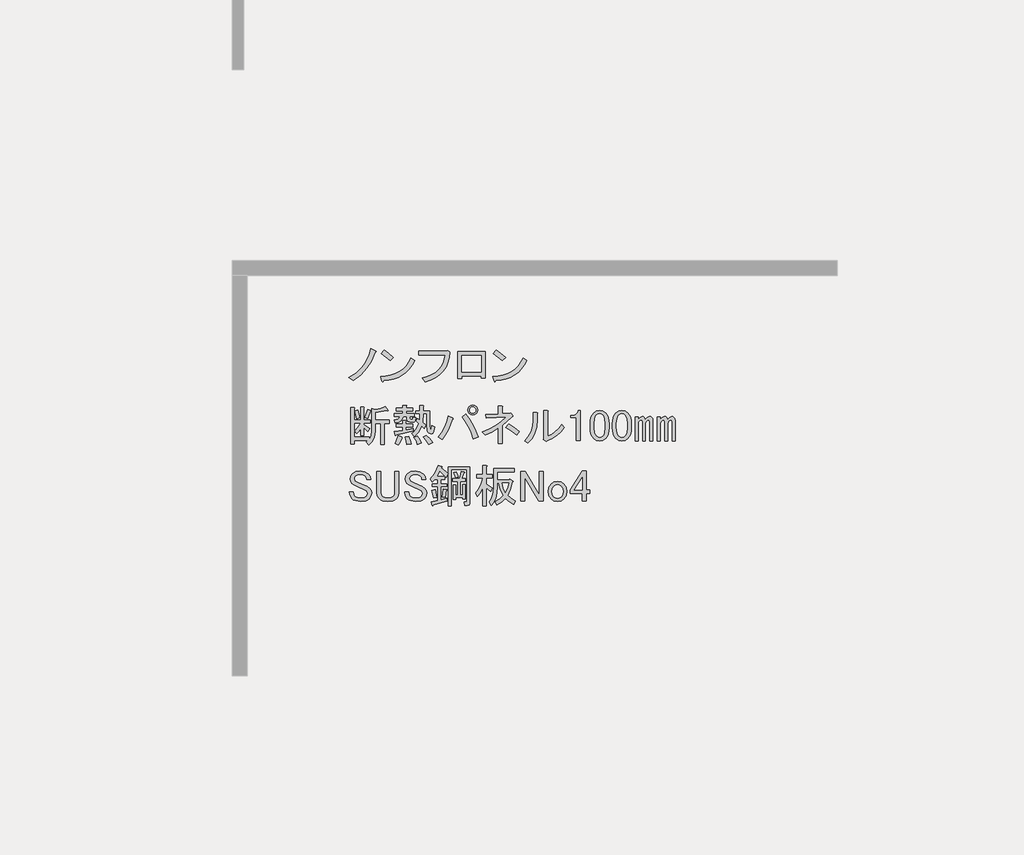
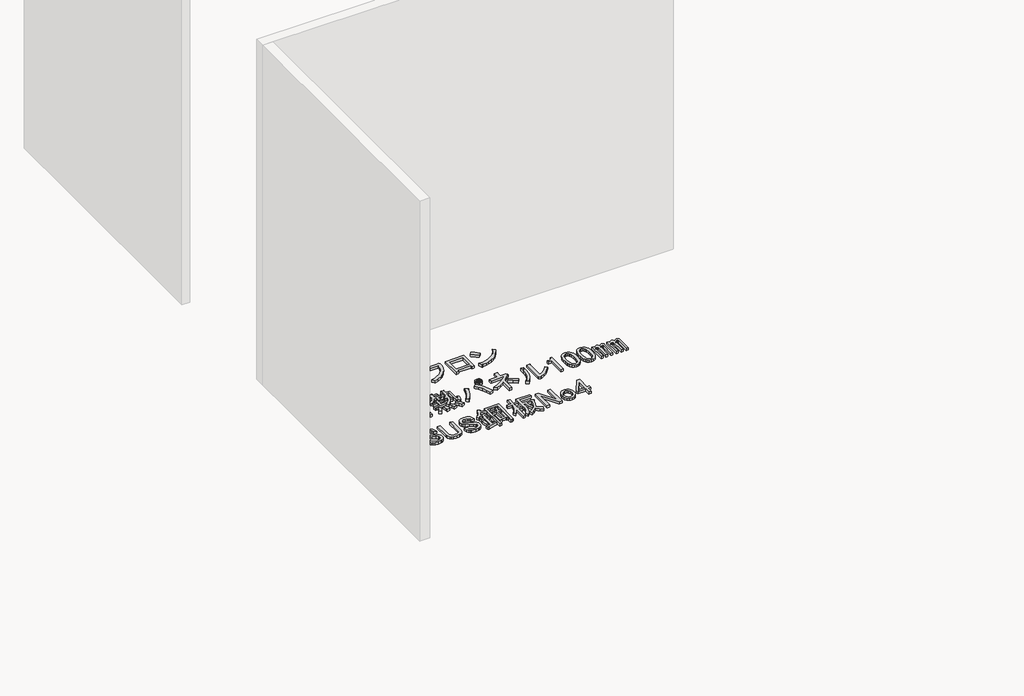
# One storey, part 48 of 117: 1 proxy.
"""IFC4 building model written with IfcOpenShell, lengths in millimetres."""

import ifcopenshell
import ifcopenshell.guid

model = None  # the IFC model being written
_history = None  # IfcOwnerHistory: only IFC2X3 demands one
_inside = {}  # id of a spatial element -> (the spatial element, [elements in it])
_under = {}  # id of a project, library or spatial element -> (it, [spatial elements below it])
_declared = {}  # id of a project -> (the project, [libraries it declares])
_typed = {}  # id of a type object -> (the type object, [elements of that type])
_made_of = {}  # id of a material, layer set ... -> (it, [elements and type objects made of it])


def new_model(schema):
    """Start an empty IFC model of exactly this schema.

    Asked for "IFC4X3", IfcOpenShell would pick the latest addendum, in which some entities
    have other attributes; the version numbers below select the first issue.
    IFC2X3 requires an IfcOwnerHistory on every rooted entity: one is made here for all.
    """
    global model, _history
    if schema == "IFC4X3":
        model = ifcopenshell.file(schema_version=(4, 3, 0, 0))
    else:
        model = ifcopenshell.file(schema=schema)
    _inside.clear()
    _under.clear()
    _declared.clear()
    _typed.clear()
    _made_of.clear()
    _history = None
    if model.schema == "IFC2X3":
        org = make("IfcOrganization", Name="unknown")
        user = make(
            "IfcPersonAndOrganization",
            ThePerson=make("IfcPerson", FamilyName="unknown"),
            TheOrganization=org,
        )
        app = make(
            "IfcApplication",
            ApplicationDeveloper=org,
            Version="unknown",
            ApplicationFullName="unknown",
            ApplicationIdentifier="unknown",
        )
        _history = make(
            "IfcOwnerHistory",
            OwningUser=user,
            OwningApplication=app,
            ChangeAction="ADDED",
            CreationDate=0,
        )
    return model


def make(cls, **values):
    """One entity of the class cls with the attributes given. An attribute that is None is left unset."""
    return model.create_entity(
        cls, **{name: value for name, value in values.items() if value is not None}
    )


def rooted(cls, **values):
    """An entity with a GlobalId (a new one), such as an element, a storey or a relation."""
    return make(cls, GlobalId=ifcopenshell.guid.new(), OwnerHistory=_history, **values)


def si_unit(unit_type, name, prefix=None):
    """IfcSIUnit, for example si_unit("LENGTHUNIT", "METRE", prefix="MILLI")."""
    return make("IfcSIUnit", UnitType=unit_type, Prefix=prefix, Name=name)


def assignment(units):
    """IfcUnitAssignment: the units of a project."""
    return None if units is None else make("IfcUnitAssignment", Units=units)


def point(xyz):
    """IfcCartesianPoint."""
    return None if xyz is None else make("IfcCartesianPoint", Coordinates=xyz)


def direction(xyz):
    """IfcDirection."""
    return None if xyz is None else make("IfcDirection", DirectionRatios=xyz)


def frame(location, z_axis=None, x_axis=None):
    """IfcAxis2Placement3D, a coordinate frame: its origin and axes. An axis left out is left unset."""
    return make(
        "IfcAxis2Placement3D",
        Location=point(location),
        Axis=direction(z_axis),
        RefDirection=direction(x_axis),
    )


def origin():
    """The frame at (0, 0, 0) with its axes left unset."""
    return frame((0.0, 0.0, 0.0))


def place(relative_to, where):
    """IfcLocalPlacement: puts the frame where relative to a parent placement (None: the world)."""
    return make(
        "IfcLocalPlacement", PlacementRelTo=relative_to, RelativePlacement=where
    )


def context(
    kind, dimensions, precision=None, world=None, true_north=None, identifier=None
):
    """IfcGeometricRepresentationContext, for example the 3D "Model" context."""
    return make(
        "IfcGeometricRepresentationContext",
        ContextIdentifier=identifier,
        ContextType=kind,
        CoordinateSpaceDimension=dimensions,
        Precision=precision,
        WorldCoordinateSystem=world,
        TrueNorth=true_north,
    )


def project(units=None, contexts=None):
    """IfcProject with its units and contexts."""
    return rooted(
        "IfcProject",
        Name="project",
        RepresentationContexts=contexts,
        UnitsInContext=assignment(units),
    )


def spatial(cls, under=None, at=None, **own):
    """A site, building, storey or space (cls), placed at a placement, below another one or the project."""
    s = rooted(cls, ObjectPlacement=at, **own)
    if under is not None:
        _under.setdefault(under.id(), (under, []))[1].append(s)
    return s


def polyline(points):
    """IfcPolyline through the points."""
    return make("IfcPolyline", Points=[point(p) for p in points])


def outline(outer, holes=None, kind="AREA"):
    """IfcArbitraryClosedProfileDef: a profile drawn as a closed curve; with holes, ...WithVoids."""
    if holes is None:
        return make("IfcArbitraryClosedProfileDef", ProfileType=kind, OuterCurve=outer)
    return make(
        "IfcArbitraryProfileDefWithVoids",
        ProfileType=kind,
        OuterCurve=outer,
        InnerCurves=holes,
    )


def extrude(swept, where, along, depth):
    """IfcExtrudedAreaSolid: the profile swept, set in the frame where, extruded along a direction by depth."""
    return make(
        "IfcExtrudedAreaSolid",
        SweptArea=swept,
        Position=where,
        ExtrudedDirection=direction(along),
        Depth=depth,
    )


def shape(context_of_items, identifier, shape_type, items):
    """IfcShapeRepresentation: the items that make up one representation, for example the "Body"."""
    return make(
        "IfcShapeRepresentation",
        ContextOfItems=context_of_items,
        RepresentationIdentifier=identifier,
        RepresentationType=shape_type,
        Items=items,
    )


def made_of(thing, what):
    """Note that an element or type object is made of a material, layer set ...; save() writes the relation."""
    if what is not None:
        _made_of.setdefault(what.id(), (what, []))[1].append(thing)
    return thing


def element(
    cls,
    number,
    at=None,
    inside=None,
    cuts=None,
    type_object=None,
    material=None,
    context=None,
    identifier="Body",
    shape_type=None,
    held_by="IfcProductDefinitionShape",
    body=None,
    shapes=None,
    **own,
):
    """One element of the class cls, such as IfcWall. Its Tag is "e" and its number.

    at: its placement. inside: the storey or other place that contains it. cuts: it is an
    opening in that element (IfcRelVoidsElement). A single representation is given by context,
    identifier, shape_type and body (its items); several are given by shapes. held_by: the class
    of the entity that holds the representations. save() writes the other relations.
    """
    e = rooted(cls, Tag="e%d" % number, ObjectPlacement=at, **own)
    if body is not None:
        shapes = [shape(context, identifier, shape_type, body)]
    if shapes is not None:
        e.Representation = make(held_by, Representations=shapes)
    if inside is not None:
        _inside.setdefault(inside.id(), (inside, []))[1].append(e)
    if cuts is not None:
        rooted(
            "IfcRelVoidsElement", RelatingBuildingElement=cuts, RelatedOpeningElement=e
        )
    if type_object is not None:
        _typed.setdefault(type_object.id(), (type_object, []))[1].append(e)
    return made_of(e, material)


def aggregate(whole, parts):
    """IfcRelAggregates: a whole, such as a stair, and the parts it consists of."""
    return rooted("IfcRelAggregates", RelatingObject=whole, RelatedObjects=parts)


def save(model, path):
    """Write the relations noted so far, then the file.

    IfcRelAggregates (storeys below a building ...), IfcRelContainedInSpatialStructure (elements
    in a storey), IfcRelDefinesByType, IfcRelAssociatesMaterial and IfcRelDeclares: one each for
    every whole, place, type object, material and project.
    """
    for whole, parts in _under.values():
        aggregate(whole, parts)
    for where, things in _inside.values():
        rooted(
            "IfcRelContainedInSpatialStructure",
            RelatedElements=things,
            RelatingStructure=where,
        )
    for kind, things in _typed.values():
        rooted("IfcRelDefinesByType", RelatedObjects=things, RelatingType=kind)
    for what, things in _made_of.values():
        rooted("IfcRelAssociatesMaterial", RelatedObjects=things, RelatingMaterial=what)
    for by, libraries in _declared.values():
        rooted("IfcRelDeclares", RelatingContext=by, RelatedDefinitions=libraries)
    model.write(path)


model = new_model("IFC4")

# Units and contexts
model_context = context("Model", 3, world=origin())
ifc_project = project(units=[si_unit("LENGTHUNIT", "METRE", prefix="MILLI")], contexts=[model_context])

# Site, building, storey
site = spatial("IfcSite", under=ifc_project)
building = spatial("IfcBuilding", under=site)
storey = spatial("IfcBuildingStorey", under=building, Name="レベル 1", Elevation=500.0)

# Proxy
placement = place(None, origin())
element("IfcBuildingElementProxy", 1, Name="200㎜\u3000MS Pゴシック", ObjectType="200㎜\u3000MS Pゴシック", at=placement, inside=storey, context=model_context, shape_type="SweptSolid", body=[
    extrude(outline(polyline([(16943.6706985, -4607.0496882), (16918.0952502, -4666.8215225), (16889.646156, -4712.7998566), (16847.9782907, -4758.2034615), (16798.8389462, -4795.560858), (16771.2519457, -4773.7211493), (16818.9544673, -4743.2605029), (16858.6107805, -4704.7536481), (16875.9963381, -4680.8305462), (16891.3703435, -4652.7406577), (16904.7327969, -4620.4839827), (16916.0836981, -4584.0605212), (16947.1190736, -4597.8540214), (16950.2800841, -4602.4518548), (16943.6706985, -4607.0496882)])), frame((0.0, 0.0, 500.0), z_axis=(0.0, 0.0, 1.0), x_axis=(1.0, 0.0, 0.0)), (0.0, 0.0, 1.0), 25.0),
    extrude(outline(polyline([(17043.3977052, -4662.2236891), (16984.7753292, -4615.0958967), (17004.3161212, -4590.9572713), (17031.6157571, -4610.7854279), (17065.2374138, -4640.3839804), (17043.3977052, -4662.2236891)])), frame((0.0, 0.0, 500.0), z_axis=(0.0, 0.0, 1.0), x_axis=(1.0, 0.0, 0.0)), (0.0, 0.0, 1.0), 25.0),
    extrude(outline(polyline([(17205.4713328, -4662.2236891), (17188.947869, -4691.965924), (17169.8381239, -4717.9724192), (17148.1420975, -4740.2431748), (17123.8597898, -4758.7781907), (17096.9912008, -4773.577467), (17067.5363306, -4784.6410036), (17035.495179, -4791.9688006), (17000.8677461, -4795.560858), (16995.1204544, -4803.6070664), (16989.3731626, -4797.8597747), (16980.1774958, -4767.9738575), (17016.0082679, -4765.2977748), (17048.7857912, -4758.9937141), (17078.5100658, -4749.0616756), (17105.1810916, -4735.5016591), (17128.7988687, -4718.3136646), (17149.363397, -4697.4976923), (17166.8746766, -4673.053742), (17181.3327074, -4644.9818138), (17205.4713328, -4662.2236891)])), frame((0.0, 0.0, 500.0), z_axis=(0.0, 0.0, 1.0), x_axis=(1.0, 0.0, 0.0)), (0.0, 0.0, 1.0), 25.0),
    extrude(outline(polyline([(17256.2314136, -4777.1695243), (17290.014713, -4767.4889298), (17319.5234641, -4755.1142922), (17344.757667, -4740.0456116), (17365.7173217, -4722.282888), (17382.402428, -4701.8261214), (17394.8129862, -4678.6753118), (17402.9489961, -4652.8304591), (17406.8104577, -4624.2915635), (17234.3917049, -4624.2915635), (17234.3917049, -4599.0034798), (17409.1093744, -4599.0034798), (17425.2017914, -4595.5551047), (17437.8458332, -4607.0496882), (17434.325617, -4643.5449909), (17426.0638851, -4676.5919185), (17413.0606375, -4706.1904711), (17395.3158742, -4732.3406486), (17372.8295952, -4755.042451), (17345.6018005, -4774.2958784), (17313.6324901, -4790.1009308), (17276.921664, -4802.4576081), (17256.2314136, -4777.1695243)])), frame((0.0, 0.0, 500.0), z_axis=(0.0, 0.0, 1.0), x_axis=(1.0, 0.0, 0.0)), (0.0, 0.0, 1.0), 25.0),
    extrude(outline(polyline([(17670.955987, -4776.020066), (17644.5184449, -4776.020066), (17644.5184449, -4763.3760241), (17516.9285679, -4763.3760241), (17516.9285679, -4781.7673577), (17490.4910258, -4781.7673577), (17490.4910258, -4602.4518548), (17670.955987, -4602.4518548), (17670.955987, -4776.020066)]), holes=[polyline([(17516.9285679, -4627.7399386), (17516.9285679, -4738.0879404), (17644.5184449, -4738.0879404), (17644.5184449, -4627.7399386), (17516.9285679, -4627.7399386)])]), frame((0.0, 0.0, 500.0), z_axis=(0.0, 0.0, 1.0), x_axis=(1.0, 0.0, 0.0)), (0.0, 0.0, 1.0), 25.0),
    extrude(outline(polyline([(17947.0099049, -4662.2236891), (17930.4864411, -4691.965924), (17911.376696, -4717.9724192), (17889.6806696, -4740.2431748), (17865.3983619, -4758.7781907), (17838.5297729, -4773.577467), (17809.0749026, -4784.6410036), (17777.0337511, -4791.9688006), (17742.4063182, -4795.560858), (17736.6590264, -4803.6070664), (17730.9117347, -4797.8597747), (17721.7160679, -4767.9738575), (17757.5468399, -4765.2977748), (17790.3243633, -4758.9937141), (17820.0486378, -4749.0616756), (17846.7196637, -4735.5016591), (17870.3374407, -4718.3136646), (17890.9019691, -4697.4976923), (17908.4132486, -4673.053742), (17922.8712795, -4644.9818138), (17947.0099049, -4662.2236891)])), frame((0.0, 0.0, 500.0), z_axis=(0.0, 0.0, 1.0), x_axis=(1.0, 0.0, 0.0)), (0.0, 0.0, 1.0), 25.0),
    extrude(outline(polyline([(17784.9362772, -4662.2236891), (17726.3139013, -4615.0958967), (17745.8546933, -4590.9572713), (17773.1543291, -4610.7854279), (17806.7759859, -4640.3839804), (17784.9362772, -4662.2236891)])), frame((0.0, 0.0, 500.0), z_axis=(0.0, 0.0, 1.0), x_axis=(1.0, 0.0, 0.0)), (0.0, 0.0, 1.0), 25.0),
    extrude(outline(polyline([(16877.0021141, -5039.2345221), (16894.2439894, -4986.3594379), (16914.9342397, -4992.1067296), (16916.6584273, -4995.2677401), (16912.635323, -4997.8540214), (16895.3934477, -5046.1312722), (16877.0021141, -5039.2345221)])), frame((0.0, 0.0, 500.0), z_axis=(0.0, 0.0, 1.0), x_axis=(1.0, 0.0, 0.0)), (0.0, 0.0, 1.0), 25.0),
    extrude(outline(polyline([(17031.0295333, -4990.9572713), (17029.3053458, -4995.5551047), (17021.8338665, -4993.256188), (16944.8201569, -5005.9002299), (16944.8201569, -5055.326939), (17036.7768251, -5055.326939), (17036.7768251, -5077.1666477), (17005.7414495, -5077.1666477), (17005.7414495, -5217.4005666), (16982.7522825, -5217.4005666), (16982.7522825, -5077.1666477), (16944.8201569, -5077.1666477), (16944.8201569, -5126.5933568), (16942.2338756, -5154.3958807), (16934.4750317, -5179.1810764), (16921.5436253, -5200.948944), (16903.4396562, -5219.6994833), (16886.1977809, -5200.1586914), (16896.5429061, -5190.9630245), (16806.8851546, -5190.9630245), (16806.8851546, -5212.8027332), (16783.8959876, -5212.8027332), (16783.8959876, -4973.715396), (16805.7356963, -4973.715396), (16810.6208943, -4976.0143127), (16806.8851546, -4980.6121461), (16806.8851546, -5056.4763974), (16849.4151137, -5056.4763974), (16849.4151137, -4969.1175626), (16867.8064473, -4969.1175626), (16872.6916453, -4971.4164793), (16868.9559057, -4976.0143127), (16868.9559057, -5056.4763974), (16912.635323, -5056.4763974), (16912.635323, -5074.867731), (16868.9559057, -5074.867731), (16868.9559057, -5084.0633978), (16909.186948, -5110.5009399), (16895.3934477, -5132.3406486), (16868.9559057, -5105.9031065), (16868.9559057, -5158.7781907), (16849.4151137, -5158.7781907), (16849.4151137, -5110.5009399), (16836.1963426, -5130.3290965), (16821.8281132, -5146.1341488), (16809.1840713, -5127.7428152), (16831.02378, -5103.6041898), (16848.2656553, -5074.867731), (16806.8851546, -5074.867731), (16806.8851546, -5169.1233159), (16904.5891146, -5169.1233159), (16904.5891146, -5182.9168161), (16917.520521, -5158.7781907), (16921.8309898, -5125.4438985), (16921.8309898, -4980.6121461), (16943.6706985, -4986.3594379), (16979.8786366, -4978.8879586), (17010.339283, -4965.6691875), (17031.0295333, -4990.9572713)])), frame((0.0, 0.0, 500.0), z_axis=(0.0, 0.0, 1.0), x_axis=(1.0, 0.0, 0.0)), (0.0, 0.0, 1.0), 25.0),
    extrude(outline(polyline([(16822.9775716, -5047.2807305), (16810.3335297, -4996.7045631), (16829.8743217, -4989.8078129), (16837.6331656, -5013.9464383), (16842.5183636, -5040.3839804), (16822.9775716, -5047.2807305)])), frame((0.0, 0.0, 500.0), z_axis=(0.0, 0.0, 1.0), x_axis=(1.0, 0.0, 0.0)), (0.0, 0.0, 1.0), 25.0),
    extrude(outline(polyline([(17121.8367431, -5167.9738575), (17125.2851182, -5172.8590555), (17119.5378264, -5176.020066), (17109.7674304, -5201.5955143), (17098.8475761, -5220.8489417), (17075.858409, -5209.3543582), (17088.5024509, -5185.790462), (17098.8475761, -5158.7781907), (17121.8367431, -5167.9738575)])), frame((0.0, 0.0, 500.0), z_axis=(0.0, 0.0, 1.0), x_axis=(1.0, 0.0, 0.0)), (0.0, 0.0, 1.0), 25.0),
    extrude(outline(polyline([(17166.6656188, -5163.3760241), (17176.7233794, -5190.67566), (17181.6085774, -5212.8027332), (17152.8721186, -5218.550025), (17150.2858373, -5196.9976809), (17142.5269934, -5166.8243992), (17166.6656188, -5163.3760241)])), frame((0.0, 0.0, 500.0), z_axis=(0.0, 0.0, 1.0), x_axis=(1.0, 0.0, 0.0)), (0.0, 0.0, 1.0), 25.0),
    extrude(outline(polyline([(17281.611454, -5157.6287323), (17306.3248086, -5178.8937119), (17325.2908714, -5203.6070664), (17298.8533293, -5218.550025), (17279.5999019, -5188.9514724), (17260.9212037, -5169.1233159), (17281.611454, -5157.6287323)])), frame((0.0, 0.0, 500.0), z_axis=(0.0, 0.0, 1.0), x_axis=(1.0, 0.0, 0.0)), (0.0, 0.0, 1.0), 25.0),
    extrude(outline(polyline([(17222.9890781, -5216.2511083), (17214.655505, -5191.5377537), (17201.1493694, -5170.2727742), (17221.8396197, -5162.2265657), (17238.7941304, -5183.7789098), (17250.5760785, -5207.0554415), (17222.9890781, -5216.2511083)])), frame((0.0, 0.0, 500.0), z_axis=(0.0, 0.0, 1.0), x_axis=(1.0, 0.0, 0.0)), (0.0, 0.0, 1.0), 25.0),
    extrude(outline(polyline([(17083.9046175, -5153.0308989), (17081.8930654, -5157.9160969), (17078.1573257, -5156.479274), (17072.410034, -5132.3406486), (17127.5840349, -5124.2944401), (17127.5840349, -5101.3052731), (17083.9046175, -5101.3052731), (17083.9046175, -5082.9139395), (17127.5840349, -5082.9139395), (17127.5840349, -5059.9247724), (17145.9753685, -5059.9247724), (17150.8605665, -5062.2236891), (17147.1248268, -5066.8215225), (17147.1248268, -5082.9139395), (17191.9537026, -5082.9139395), (17191.9537026, -5101.3052731), (17147.1248268, -5101.3052731), (17147.1248268, -5120.8460651), (17197.7009943, -5111.6503983), (17197.7009943, -5127.7428152), (17083.9046175, -5153.0308989)])), frame((0.0, 0.0, 500.0), z_axis=(0.0, 0.0, 1.0), x_axis=(1.0, 0.0, 0.0)), (0.0, 0.0, 1.0), 25.0),
    extrude(outline(polyline([(17154.021577, -5031.1883136), (17128.7334932, -5031.1883136), (17124.1356598, -5048.6457123), (17113.7905346, -5061.9363245), (17097.6981177, -5071.0601502), (17075.858409, -5076.0171893), (17071.2605756, -5056.4763974), (17096.5486594, -5047.8554597), (17104.0201386, -5040.5276627), (17108.0432429, -5031.1883136), (17072.410034, -5031.1883136), (17072.410034, -5012.79698), (17126.4345765, -5012.79698), (17126.4345765, -4995.5551047), (17082.7551591, -4995.5551047), (17082.7551591, -4977.1637711), (17126.4345765, -4977.1637711), (17126.4345765, -4958.7724374), (17148.2742852, -4958.7724374), (17153.1594832, -4961.0713541), (17149.4237436, -4965.6691875), (17149.4237436, -4977.1637711), (17191.9537026, -4977.1637711), (17191.9537026, -4995.5551047), (17149.4237436, -4995.5551047), (17149.4237436, -5012.79698), (17202.2988277, -5012.79698), (17202.2988277, -5031.1883136), (17173.5623689, -5031.1883136), (17173.5623689, -5043.8323555), (17174.9991919, -5049.0049181), (17179.3096607, -5050.7291056), (17189.6547859, -5050.7291056), (17193.3905255, -5047.5680951), (17193.1031609, -5038.0850637), (17212.6439529, -5040.3839804), (17209.770307, -5061.9363245), (17204.4540622, -5067.3244106), (17196.551536, -5069.1204392), (17172.4129106, -5069.1204392), (17158.6194104, -5064.2352412), (17154.021577, -5049.5796472), (17154.021577, -5031.1883136)])), frame((0.0, 0.0, 500.0), z_axis=(0.0, 0.0, 1.0), x_axis=(1.0, 0.0, 0.0)), (0.0, 0.0, 1.0), 25.0),
    extrude(outline(polyline([(17285.0598291, -5013.9464383), (17263.2201204, -5013.9464383), (17258.622287, -5071.4193559), (17278.163079, -5089.8106896), (17267.8179538, -5111.6503983), (17251.7255369, -5095.5579813), (17232.4721095, -5133.2027424), (17202.2988277, -5165.6749408), (17185.0569525, -5144.9846905), (17200.1435933, -5133.0590601), (17213.2186821, -5117.9724192), (17224.2822187, -5099.7247679), (17233.3342033, -5078.316106), (17216.092328, -5063.3731475), (17224.1385364, -5046.1312722), (17237.9320367, -5056.4763974), (17240.2309534, -5013.9464383), (17212.6439529, -5013.9464383), (17212.6439529, -4995.5551047), (17240.2309534, -4995.5551047), (17240.2309534, -4961.0713541), (17262.0706621, -4961.0713541), (17266.95586, -4963.3702708), (17263.2201204, -4967.9681043), (17263.2201204, -4995.5551047), (17304.6006211, -4995.5551047), (17304.6006211, -5092.1096063), (17308.0489961, -5116.2482317), (17311.2818477, -5118.2597838), (17314.0836525, -5115.0987733), (17318.3941213, -5093.2590646), (17337.9349133, -5100.1558147), (17333.408921, -5126.9525626), (17325.578236, -5142.9731384), (17314.4428582, -5148.2175421), (17300.0027877, -5142.6857738), (17293.4652433, -5135.3579768), (17288.7955687, -5123.719711), (17285.0598291, -5087.5117729), (17285.0598291, -5013.9464383)])), frame((0.0, 0.0, 500.0), z_axis=(0.0, 0.0, 1.0), x_axis=(1.0, 0.0, 0.0)), (0.0, 0.0, 1.0), 25.0),
    extrude(outline(polyline([(17543.6879583, -5016.245355), (17570.3410238, -5052.9561812), (17592.8273029, -5090.6727833), (17611.1467953, -5129.3951616), (17625.2995013, -5169.1233159), (17594.2641258, -5179.468441), (17578.8182792, -5136.3637528), (17561.2171982, -5097.856898), (17541.4608827, -5063.9478766), (17519.5493329, -5034.6366887), (17543.6879583, -5016.245355)])), frame((0.0, 0.0, 500.0), z_axis=(0.0, 0.0, 1.0), x_axis=(1.0, 0.0, 0.0)), (0.0, 0.0, 1.0), 25.0),
    extrude(outline(polyline([(17456.3291235, -5042.6828971), (17460.3522278, -5048.1428243), (17454.0302068, -5053.0280223), (17442.1045764, -5088.4457078), (17427.0179356, -5122.282888), (17408.7702842, -5154.539563), (17387.3616224, -5185.2157328), (17360.9240803, -5167.9738575), (17384.1287708, -5136.5074351), (17403.1666748, -5103.0294606), (17418.0377922, -5067.539934), (17428.7421231, -5030.0388553), (17456.3291235, -5042.6828971)])), frame((0.0, 0.0, 500.0), z_axis=(0.0, 0.0, 1.0), x_axis=(1.0, 0.0, 0.0)), (0.0, 0.0, 1.0), 25.0),
    extrude(outline(polyline([(17589.6662924, -5021.9926468), (17577.0222505, -5019.6937301), (17566.6771253, -5012.79698), (17559.7803752, -5002.4518548), (17557.4814585, -4989.8078129), (17559.7803752, -4977.1637711), (17566.6771253, -4966.8186459), (17577.0222505, -4959.9218958), (17589.6662924, -4957.6229791), (17602.3103343, -4959.9218958), (17612.6554594, -4966.8186459), (17619.5522095, -4977.1637711), (17621.8511262, -4989.8078129), (17619.5522095, -5002.4518548), (17612.6554594, -5012.79698), (17602.3103343, -5019.6937301), (17589.6662924, -5021.9926468)]), holes=[polyline([(17589.6662924, -5010.4980633), (17597.9998654, -5009.0612403), (17604.609251, -5004.7507715), (17608.9197198, -4998.141386), (17610.3565427, -4989.8078129), (17608.9197198, -4981.4742399), (17604.609251, -4974.8648544), (17597.9998654, -4970.5543855), (17589.6662924, -4969.1175626), (17581.3327193, -4970.5543855), (17574.7233338, -4974.8648544), (17570.412865, -4981.4742399), (17568.976042, -4989.8078129), (17570.412865, -4998.141386), (17574.7233338, -5004.7507715), (17581.3327193, -5009.0612403), (17589.6662924, -5010.4980633)])]), frame((0.0, 0.0, 500.0), z_axis=(0.0, 0.0, 1.0), x_axis=(1.0, 0.0, 0.0)), (0.0, 0.0, 1.0), 25.0),
    extrude(outline(polyline([(17879.3297971, -5155.3298156), (17842.2597652, -5126.0186277), (17809.2128376, -5104.7536481), (17826.4547129, -5082.9139395), (17865.2489323, -5106.1904711), (17898.8705891, -5132.3406486), (17879.3297971, -5155.3298156)])), frame((0.0, 0.0, 500.0), z_axis=(0.0, 0.0, 1.0), x_axis=(1.0, 0.0, 0.0)), (0.0, 0.0, 1.0), 25.0),
    extrude(outline(polyline([(17833.351463, -5011.6475216), (17840.2482131, -5009.3486049), (17852.892255, -5026.5904802), (17854.0417134, -5032.6251366), (17848.2944216, -5034.6366887), (17785.0742122, -5090.9601479), (17785.0742122, -5211.6532749), (17758.6366701, -5211.6532749), (17758.6366701, -5109.3514816), (17718.4056278, -5133.4901069), (17673.5767521, -5155.3298156), (17654.0359601, -5134.6395653), (17699.5832473, -5115.1706145), (17740.8200657, -5092.3969709), (17777.7464152, -5066.3186345), (17810.362296, -5036.9356054), (17680.4735022, -5042.6828971), (17677.0251271, -5017.3948134), (17758.6366701, -5015.0958967), (17758.6366701, -4963.3702708), (17781.6258372, -4963.3702708), (17787.6604935, -4966.8186459), (17785.0742122, -4972.5659377), (17785.0742122, -5013.9464383), (17833.351463, -5011.6475216)])), frame((0.0, 0.0, 500.0), z_axis=(0.0, 0.0, 1.0), x_axis=(1.0, 0.0, 0.0)), (0.0, 0.0, 1.0), 25.0),
    extrude(outline(polyline([(17932.296838, -5193.2619413), (17957.4412394, -5164.0225944), (17975.4015262, -5131.4785548), (17986.1776982, -5095.6298225), (17989.7697556, -5056.4763974), (17989.7697556, -5004.7507715), (18013.908381, -5004.7507715), (18019.6556727, -5008.1991466), (18016.2072977, -5013.9464383), (18016.2072977, -5055.326939), (18012.3997169, -5101.0897496), (18000.9769745, -5141.82368), (17981.9390705, -5177.5287301), (17955.286005, -5208.2048998), (17932.296838, -5193.2619413)])), frame((0.0, 0.0, 500.0), z_axis=(0.0, 0.0, 1.0), x_axis=(1.0, 0.0, 0.0)), (0.0, 0.0, 1.0), 25.0),
    extrude(outline(polyline([(18086.3242571, -5162.2265657), (18111.1094529, -5150.0135708), (18134.8888725, -5132.9153778), (18157.6625161, -5110.9319868), (18179.4303837, -5084.0633978), (18195.5228006, -5105.9031065), (18172.246269, -5133.7056304), (18146.0960914, -5157.3413678), (18117.0722681, -5176.8103186), (18085.1747988, -5192.1124829), (18075.979132, -5196.7103163), (18057.5877983, -5182.9168161), (18059.886715, -5177.1695243), (18059.886715, -4992.1067296), (18084.0253404, -4992.1067296), (18089.7726322, -4995.5551047), (18086.3242571, -5001.3023965), (18086.3242571, -5162.2265657)])), frame((0.0, 0.0, 500.0), z_axis=(0.0, 0.0, 1.0), x_axis=(1.0, 0.0, 0.0)), (0.0, 0.0, 1.0), 25.0),
    extrude(outline(polyline([(18274.8354269, -5015.0958967), (18282.8816353, -5004.1760423), (18286.3300104, -4992.1067296), (18300.1235106, -4992.1067296), (18300.1235106, -5190.9630245), (18273.6859685, -5190.9630245), (18273.6859685, -5038.0850637), (18239.202218, -5038.0850637), (18239.202218, -5024.2915635), (18249.5473431, -5024.2915635), (18263.9155725, -5021.9926468), (18274.8354269, -5015.0958967)])), frame((0.0, 0.0, 500.0), z_axis=(0.0, 0.0, 1.0), x_axis=(1.0, 0.0, 0.0)), (0.0, 0.0, 1.0), 25.0),
    extrude(outline(polyline([(18365.6426367, -5081.7644811), (18367.0794596, -5058.2005849), (18371.3899284, -5038.0850637), (18378.5740431, -5021.4179176), (18388.6318037, -5008.1991466), (18406.7357728, -4996.1298339), (18428.862846, -4992.1067296), (18450.9899193, -4996.1298339), (18469.0938884, -5008.1991466), (18479.1516489, -5021.4179176), (18486.3357636, -5038.0850637), (18490.6462325, -5058.2005849), (18492.0830554, -5081.7644811), (18492.0830554, -5104.7536481), (18490.6462325, -5127.8146563), (18486.3357636, -5147.5709718), (18479.1516489, -5164.0225944), (18469.0938884, -5177.1695243), (18450.9899193, -5189.238837), (18428.862846, -5193.2619413), (18406.7357728, -5189.238837), (18388.6318037, -5177.1695243), (18378.5740431, -5164.0225944), (18371.3899284, -5147.5709718), (18367.0794596, -5127.8146563), (18365.6426367, -5104.7536481), (18365.6426367, -5081.7644811)]), holes=[polyline([(18428.862846, -5013.9464383), (18417.9429917, -5016.245355), (18408.1725957, -5023.1421052), (18401.6350513, -5032.2659308), (18396.9653768, -5044.6944493), (18393.2296371, -5079.4655644), (18393.2296371, -5105.9031065), (18397.2527414, -5140.0994925), (18402.2816217, -5152.6716932), (18409.3220541, -5162.2265657), (18418.8050855, -5169.1233159), (18428.862846, -5171.4222326), (18439.7827004, -5169.1233159), (18449.5530964, -5162.2265657), (18456.0906408, -5153.1027401), (18460.7603153, -5140.6742216), (18464.496055, -5105.9031065), (18464.496055, -5079.4655644), (18460.7603153, -5044.6944493), (18456.0906408, -5032.2659308), (18449.5530964, -5023.1421052), (18439.7827004, -5016.245355), (18428.862846, -5013.9464383)])]), frame((0.0, 0.0, 500.0), z_axis=(0.0, 0.0, 1.0), x_axis=(1.0, 0.0, 0.0)), (0.0, 0.0, 1.0), 25.0),
    extrude(outline(polyline([(18512.7733057, -5081.7644811), (18514.2101287, -5058.2005849), (18518.5205975, -5038.0850637), (18525.7047122, -5021.4179176), (18535.7624728, -5008.1991466), (18553.8664418, -4996.1298339), (18575.9935151, -4992.1067296), (18598.1205884, -4996.1298339), (18616.2245574, -5008.1991466), (18626.282318, -5021.4179176), (18633.4664327, -5038.0850637), (18637.7769015, -5058.2005849), (18639.2137245, -5081.7644811), (18639.2137245, -5104.7536481), (18637.7769015, -5127.8146563), (18633.4664327, -5147.5709718), (18626.282318, -5164.0225944), (18616.2245574, -5177.1695243), (18598.1205884, -5189.238837), (18575.9935151, -5193.2619413), (18553.8664418, -5189.238837), (18535.7624728, -5177.1695243), (18525.7047122, -5164.0225944), (18518.5205975, -5147.5709718), (18514.2101287, -5127.8146563), (18512.7733057, -5104.7536481), (18512.7733057, -5081.7644811)]), holes=[polyline([(18575.9935151, -5013.9464383), (18565.0736608, -5016.245355), (18555.3032648, -5023.1421052), (18548.7657204, -5032.2659308), (18544.0960458, -5044.6944493), (18540.3603062, -5079.4655644), (18540.3603062, -5105.9031065), (18544.3834104, -5140.0994925), (18549.4122907, -5152.6716932), (18556.4527231, -5162.2265657), (18565.9357545, -5169.1233159), (18575.9935151, -5171.4222326), (18586.9133694, -5169.1233159), (18596.6837654, -5162.2265657), (18603.2213098, -5153.1027401), (18607.8909844, -5140.6742216), (18611.626724, -5105.9031065), (18611.626724, -5079.4655644), (18607.8909844, -5044.6944493), (18603.2213098, -5032.2659308), (18596.6837654, -5023.1421052), (18586.9133694, -5016.245355), (18575.9935151, -5013.9464383)])]), frame((0.0, 0.0, 500.0), z_axis=(0.0, 0.0, 1.0), x_axis=(1.0, 0.0, 0.0)), (0.0, 0.0, 1.0), 25.0),
    extrude(outline(polyline([(18684.0426002, -5193.2619413), (18664.5018082, -5193.2619413), (18664.5018082, -5035.786147), (18684.0426002, -5035.786147), (18684.0426002, -5053.0280223), (18696.1119129, -5037.5103346), (18709.3306839, -5032.337772), (18718.5263508, -5033.7745949), (18725.4231009, -5038.0850637), (18732.319851, -5051.878564), (18745.2512574, -5037.22297), (18758.7573931, -5032.337772), (18767.0909661, -5033.7745949), (18773.7003517, -5038.0850637), (18778.8729142, -5046.7060014), (18780.5971018, -5058.7753141), (18780.5971018, -5193.2619413), (18761.0563098, -5193.2619413), (18761.0563098, -5069.1204392), (18758.4700285, -5059.6374078), (18750.7111846, -5056.4763974), (18740.3660594, -5061.0742308), (18734.3314031, -5069.6951684), (18732.319851, -5079.4655644), (18732.319851, -5193.2619413), (18712.779059, -5193.2619413), (18712.779059, -5069.1204392), (18710.1927777, -5059.6374078), (18702.4339338, -5056.4763974), (18692.0888087, -5061.0742308), (18686.0541523, -5069.6951684), (18684.0426002, -5079.4655644), (18684.0426002, -5193.2619413)])), frame((0.0, 0.0, 500.0), z_axis=(0.0, 0.0, 1.0), x_axis=(1.0, 0.0, 0.0)), (0.0, 0.0, 1.0), 25.0),
    extrude(outline(polyline([(18905.8880621, -5032.337772), (18914.2216352, -5033.7745949), (18920.8310207, -5038.0850637), (18926.0035833, -5046.7060014), (18927.7277708, -5058.7753141), (18927.7277708, -5193.2619413), (18908.1869788, -5193.2619413), (18908.1869788, -5069.1204392), (18905.6006976, -5059.6374078), (18897.8418537, -5056.4763974), (18887.4967285, -5061.0742308), (18881.4620722, -5069.6951684), (18879.45052, -5079.4655644), (18879.45052, -5193.2619413), (18859.9097281, -5193.2619413), (18859.9097281, -5069.1204392), (18857.3234468, -5059.6374078), (18849.5646029, -5056.4763974), (18839.2194777, -5061.0742308), (18833.1848214, -5069.6951684), (18831.1732693, -5079.4655644), (18831.1732693, -5193.2619413), (18811.6324773, -5193.2619413), (18811.6324773, -5035.786147), (18831.1732693, -5035.786147), (18831.1732693, -5053.0280223), (18843.242582, -5037.5103346), (18856.461353, -5032.337772), (18865.6570198, -5033.7745949), (18872.5537699, -5038.0850637), (18879.45052, -5051.878564), (18892.3819265, -5037.22297), (18905.8880621, -5032.337772)])), frame((0.0, 0.0, 500.0), z_axis=(0.0, 0.0, 1.0), x_axis=(1.0, 0.0, 0.0)), (0.0, 0.0, 1.0), 25.0),
    extrude(outline(polyline([(16779.2981542, -5447.2807305), (16783.3212584, -5426.8778448), (16795.3905711, -5409.3486049), (16815.7934569, -5397.2792922), (16844.8172803, -5393.256188), (16876.1400204, -5397.8540214), (16898.8418228, -5411.6475216), (16910.9111355, -5429.1767615), (16914.9342397, -5449.5796472), (16888.4966976, -5449.5796472), (16886.1977809, -5436.9356054), (16879.3010308, -5426.5904802), (16866.0822598, -5418.8316363), (16847.116197, -5416.245355), (16826.7133112, -5418.5442717), (16813.7819048, -5425.4410219), (16807.7472484, -5434.0619595), (16805.7356963, -5443.8323555), (16810.3335297, -5458.7753141), (16831.02378, -5470.2698976), (16890.7956143, -5496.7074397), (16908.0374896, -5508.2020232), (16917.520521, -5521.9955234), (16920.6815315, -5538.0879404), (16916.6584273, -5559.3529199), (16904.5891146, -5577.1695243), (16894.6031951, -5584.7128448), (16881.8873121, -5590.1009308), (16848.2656553, -5594.4113996), (16814.6439985, -5589.238837), (16801.0660217, -5582.7731338), (16789.6432794, -5573.7211493), (16778.4360604, -5555.3298156), (16774.7003208, -5530.0417319), (16801.1378629, -5530.0417319), (16803.4367796, -5547.8583363), (16810.3335297, -5559.927649), (16826.4259466, -5569.4106804), (16849.4151137, -5572.5716909), (16870.3927286, -5569.698045), (16885.0483226, -5561.0771074), (16891.9450727, -5551.8814406), (16894.2439894, -5542.6857738), (16892.5198019, -5533.2027424), (16887.3472393, -5525.4438985), (16868.9559057, -5513.949315), (16839.0699885, -5500.1558147), (16805.7356963, -5485.2128562), (16789.6432794, -5474.867731), (16781.8844355, -5462.7984183), (16779.2981542, -5447.2807305)])), frame((0.0, 0.0, 500.0), z_axis=(0.0, 0.0, 1.0), x_axis=(1.0, 0.0, 0.0)), (0.0, 0.0, 1.0), 25.0),
    extrude(outline(polyline([(16954.7054987, -5395.5551047), (16981.1430408, -5395.5551047), (16981.1430408, -5533.4901069), (16983.7293221, -5548.1457009), (16991.488166, -5559.927649), (17007.0058537, -5569.4106804), (17028.2708332, -5572.5716909), (17049.5358128, -5569.4106804), (17065.0535005, -5559.927649), (17072.8123444, -5548.1457009), (17075.3986257, -5533.4901069), (17075.3986257, -5395.5551047), (17101.8361678, -5395.5551047), (17101.8361678, -5534.6395653), (17097.8130635, -5557.6287323), (17085.7437508, -5576.020066), (17075.2549434, -5584.0662744), (17062.1798546, -5589.8135662), (17028.2708332, -5594.4113996), (16994.3618119, -5589.8135662), (16981.2867231, -5584.0662744), (16970.7979156, -5576.020066), (16958.7286029, -5557.6287323), (16954.7054987, -5534.6395653), (16954.7054987, -5395.5551047)])), frame((0.0, 0.0, 500.0), z_axis=(0.0, 0.0, 1.0), x_axis=(1.0, 0.0, 0.0)), (0.0, 0.0, 1.0), 25.0),
    extrude(outline(polyline([(17144.1822135, -5447.2807305), (17148.2053177, -5426.8778448), (17160.2746304, -5409.3486049), (17180.6775161, -5397.2792922), (17209.7013395, -5393.256188), (17241.0240796, -5397.8540214), (17263.7258821, -5411.6475216), (17275.7951948, -5429.1767615), (17279.818299, -5449.5796472), (17253.3807569, -5449.5796472), (17251.0818402, -5436.9356054), (17244.1850901, -5426.5904802), (17230.966319, -5418.8316363), (17212.0002562, -5416.245355), (17191.5973705, -5418.5442717), (17178.665964, -5425.4410219), (17172.6313077, -5434.0619595), (17170.6197556, -5443.8323555), (17175.217589, -5458.7753141), (17195.9078393, -5470.2698976), (17255.6796736, -5496.7074397), (17272.9215489, -5508.2020232), (17282.4045803, -5521.9955234), (17285.5655908, -5538.0879404), (17281.5424865, -5559.3529199), (17269.4731738, -5577.1695243), (17259.4872544, -5584.7128448), (17246.7713714, -5590.1009308), (17213.1497146, -5594.4113996), (17179.5280578, -5589.238837), (17165.950081, -5582.7731338), (17154.5273386, -5573.7211493), (17143.3201197, -5555.3298156), (17139.5843801, -5530.0417319), (17166.0219222, -5530.0417319), (17168.3208389, -5547.8583363), (17175.217589, -5559.927649), (17191.3100059, -5569.4106804), (17214.2991729, -5572.5716909), (17235.2767879, -5569.698045), (17249.9323819, -5561.0771074), (17256.829132, -5551.8814406), (17259.1280487, -5542.6857738), (17257.4038611, -5533.2027424), (17252.2312986, -5525.4438985), (17233.8399649, -5513.949315), (17203.9540478, -5500.1558147), (17170.6197556, -5485.2128562), (17154.5273386, -5474.867731), (17146.7684948, -5462.7984183), (17144.1822135, -5447.2807305)])), frame((0.0, 0.0, 500.0), z_axis=(0.0, 0.0, 1.0), x_axis=(1.0, 0.0, 0.0)), (0.0, 0.0, 1.0), 25.0),
    extrude(outline(polyline([(17413.8451429, -5434.6366887), (17372.4646422, -5390.9572713), (17350.6249335, -5430.0388553), (17405.7989344, -5430.0388553), (17405.7989344, -5448.4301889), (17379.3613923, -5448.4301889), (17379.3613923, -5477.1666477), (17417.2935179, -5477.1666477), (17417.2935179, -5495.5579813), (17379.3613923, -5495.5579813), (17379.3613923, -5582.9168161), (17418.4429763, -5572.5716909), (17420.741893, -5592.1124829), (17328.7852248, -5617.4005666), (17326.4863081, -5623.1478584), (17321.8884747, -5619.6994833), (17314.9917246, -5596.7103163), (17359.8206003, -5587.5146495), (17359.8206003, -5495.5579813), (17321.8884747, -5495.5579813), (17321.8884747, -5477.1666477), (17359.8206003, -5477.1666477), (17359.8206003, -5448.4301889), (17337.9808916, -5448.4301889), (17323.037933, -5466.8215225), (17310.3938912, -5446.1312722), (17338.5556208, -5408.4865112), (17363.2689754, -5357.6229791), (17385.1086841, -5363.3702708), (17388.5570591, -5367.1060105), (17382.8097674, -5369.1175626), (17381.660309, -5372.5659377), (17426.4891847, -5410.4980633), (17413.8451429, -5434.6366887)])), frame((0.0, 0.0, 500.0), z_axis=(0.0, 0.0, 1.0), x_axis=(1.0, 0.0, 0.0)), (0.0, 0.0, 1.0), 25.0),
    extrude(outline(polyline([(17481.6631856, -5397.8540214), (17488.8473003, -5413.0843446), (17494.3072275, -5433.4872303), (17477.0653522, -5439.2345221), (17465.5707687, -5402.4518548), (17481.6631856, -5397.8540214)])), frame((0.0, 0.0, 500.0), z_axis=(0.0, 0.0, 1.0), x_axis=(1.0, 0.0, 0.0)), (0.0, 0.0, 1.0), 25.0),
    extrude(outline(polyline([(17534.5382698, -5399.0034798), (17537.1245511, -5402.4518548), (17531.0898948, -5405.9002299), (17518.4458529, -5443.8323555), (17539.1361032, -5443.8323555), (17539.1361032, -5462.2236891), (17508.1007277, -5462.2236891), (17508.1007277, -5550.7319822), (17523.0436863, -5550.7319822), (17523.0436863, -5482.9139395), (17539.1361032, -5482.9139395), (17539.1361032, -5577.1695243), (17523.0436863, -5577.1695243), (17523.0436863, -5569.1233159), (17477.0653522, -5569.1233159), (17477.0653522, -5581.7673577), (17460.9729353, -5581.7673577), (17460.9729353, -5485.2128562), (17477.0653522, -5485.2128562), (17477.0653522, -5550.7319822), (17492.0083108, -5550.7319822), (17492.0083108, -5462.2236891), (17456.3751019, -5462.2236891), (17456.3751019, -5443.8323555), (17502.353436, -5443.8323555), (17512.6985611, -5394.4056463), (17534.5382698, -5399.0034798)])), frame((0.0, 0.0, 500.0), z_axis=(0.0, 0.0, 1.0), x_axis=(1.0, 0.0, 0.0)), (0.0, 0.0, 1.0), 25.0),
    extrude(outline(polyline([(17428.7881014, -5365.6691875), (17569.0220204, -5365.6691875), (17569.0220204, -5605.9059831), (17565.2862807, -5617.1132021), (17554.0790618, -5620.8489417), (17537.9866449, -5620.8489417), (17533.3888115, -5599.009233), (17544.883395, -5599.009233), (17548.33177, -5597.8597747), (17549.4812284, -5594.4113996), (17549.4812284, -5384.0605212), (17448.3288934, -5384.0605212), (17448.3288934, -5623.1478584), (17428.7881014, -5623.1478584), (17428.7881014, -5365.6691875)])), frame((0.0, 0.0, 500.0), z_axis=(0.0, 0.0, 1.0), x_axis=(1.0, 0.0, 0.0)), (0.0, 0.0, 1.0), 25.0),
    extrude(outline(polyline([(17417.2935179, -5513.949315), (17419.8797992, -5517.1103254), (17416.1440596, -5519.6966067), (17408.0978511, -5566.8243992), (17389.7065175, -5564.5254825), (17395.4538092, -5510.5009399), (17417.2935179, -5513.949315)])), frame((0.0, 0.0, 500.0), z_axis=(0.0, 0.0, 1.0), x_axis=(1.0, 0.0, 0.0)), (0.0, 0.0, 1.0), 25.0),
    extrude(outline(polyline([(17340.2798083, -5515.0987733), (17351.7743918, -5566.8243992), (17331.0841415, -5572.5716909), (17319.589558, -5520.8460651), (17340.2798083, -5515.0987733)])), frame((0.0, 0.0, 500.0), z_axis=(0.0, 0.0, 1.0), x_axis=(1.0, 0.0, 0.0)), (0.0, 0.0, 1.0), 25.0),
    extrude(outline(polyline([(17657.5303135, -5623.1478584), (17657.5303135, -5503.6041898), (17639.713709, -5537.8005758), (17620.7476462, -5559.927649), (17609.2530627, -5539.2373987), (17626.494938, -5516.5355963), (17640.2884382, -5492.1096063), (17650.6335634, -5465.9594288), (17657.5303135, -5438.0850637), (17616.1498128, -5438.0850637), (17616.1498128, -5416.245355), (17657.5303135, -5416.245355), (17657.5303135, -5356.4735207), (17679.3700222, -5356.4735207), (17684.2552202, -5358.7724374), (17680.5194805, -5363.3702708), (17680.5194805, -5416.245355), (17718.4516061, -5416.245355), (17718.4516061, -5438.0850637), (17680.5194805, -5438.0850637), (17680.5194805, -5478.316106), (17718.4516061, -5504.7536481), (17708.106481, -5527.7428152), (17680.5194805, -5504.7536481), (17680.5194805, -5623.1478584), (17657.5303135, -5623.1478584)])), frame((0.0, 0.0, 500.0), z_axis=(0.0, 0.0, 1.0), x_axis=(1.0, 0.0, 0.0)), (0.0, 0.0, 1.0), 25.0),
    extrude(outline(polyline([(17740.2913148, -5594.4113996), (17769.0277736, -5577.1695243), (17790.8674823, -5555.3298156), (17773.0508779, -5513.3745858), (17763.2804819, -5472.5688143), (17750.63644, -5472.5688143), (17750.63644, -5496.7074397), (17748.193841, -5538.4471461), (17740.866044, -5572.8590555), (17728.653049, -5599.9431679), (17711.554856, -5619.6994833), (17697.7613558, -5596.7103163), (17710.8364446, -5579.3247587), (17720.1757937, -5557.0540032), (17725.7794031, -5529.8980496), (17727.647273, -5497.856898), (17727.647273, -5377.1637711), (17864.4328169, -5377.1637711), (17864.4328169, -5399.0034798), (17750.63644, -5399.0034798), (17750.63644, -5450.7291056), (17829.9490663, -5450.7291056), (17835.6963581, -5444.9818138), (17855.23715, -5458.7753141), (17856.673973, -5462.5110537), (17851.788775, -5466.8215225), (17839.4320977, -5513.3745858), (17820.7533995, -5554.1803573), (17839.7194623, -5572.5716909), (17871.329567, -5590.9630245), (17862.1339002, -5615.1016499), (17834.2595351, -5599.009233), (17805.8104409, -5573.7211493), (17781.3844509, -5598.1471392), (17749.4869817, -5618.550025), (17740.2913148, -5594.4113996)]), holes=[polyline([(17785.1201906, -5472.5688143), (17793.166399, -5505.6157419), (17805.8104409, -5533.4901069), (17818.4544828, -5507.3399294), (17826.5006912, -5472.5688143), (17785.1201906, -5472.5688143)])]), frame((0.0, 0.0, 500.0), z_axis=(0.0, 0.0, 1.0), x_axis=(1.0, 0.0, 0.0)), (0.0, 0.0, 1.0), 25.0),
    extrude(outline(polyline([(17908.1122342, -5395.5551047), (17936.848693, -5395.5551047), (18028.8053612, -5550.7319822), (18028.8053612, -5395.5551047), (18055.2429033, -5395.5551047), (18055.2429033, -5592.1124829), (18026.5064445, -5592.1124829), (17934.5497763, -5436.9356054), (17934.5497763, -5592.1124829), (17908.1122342, -5592.1124829), (17908.1122342, -5395.5551047)])), frame((0.0, 0.0, 500.0), z_axis=(0.0, 0.0, 1.0), x_axis=(1.0, 0.0, 0.0)), (0.0, 0.0, 1.0), 25.0),
    extrude(outline(polyline([(18088.3932822, -5527.7428152), (18093.2784802, -5500.4431793), (18107.9340742, -5478.316106), (18127.1875015, -5465.3846996), (18150.4640332, -5461.0742308), (18173.7405648, -5465.3846996), (18192.9939922, -5478.316106), (18207.6495862, -5500.4431793), (18212.5347842, -5527.7428152), (18207.6495862, -5555.042451), (18192.9939922, -5577.1695243), (18173.7405648, -5590.1009308), (18150.4640332, -5594.4113996), (18127.1875015, -5590.1009308), (18107.9340742, -5577.1695243), (18093.2784802, -5555.042451), (18088.3932822, -5527.7428152)]), holes=[polyline([(18150.4640332, -5481.7644811), (18137.8199913, -5484.0633978), (18127.4748661, -5490.9601479), (18117.129741, -5507.0525648), (18113.6813659, -5527.7428152), (18116.8423764, -5548.1457009), (18126.3254078, -5563.3760241), (18137.5326267, -5571.134868), (18150.4640332, -5573.7211493), (18163.3954396, -5571.134868), (18174.6026586, -5563.3760241), (18184.08569, -5548.1457009), (18187.2467004, -5527.7428152), (18183.7983254, -5507.0525648), (18173.4532002, -5490.9601479), (18163.1080751, -5484.0633978), (18150.4640332, -5481.7644811)])]), frame((0.0, 0.0, 500.0), z_axis=(0.0, 0.0, 1.0), x_axis=(1.0, 0.0, 0.0)), (0.0, 0.0, 1.0), 25.0),
    extrude(outline(polyline([(18313.1813575, -5393.256188), (18339.6188996, -5393.256188), (18339.6188996, -5519.6966067), (18363.757525, -5519.6966067), (18363.757525, -5541.5363154), (18339.6188996, -5541.5363154), (18339.6188996, -5592.1124829), (18313.1813575, -5592.1124829), (18313.1813575, -5541.5363154), (18236.1676479, -5541.5363154), (18236.1676479, -5518.5471484), (18313.1813575, -5393.256188)]), holes=[polyline([(18313.1813575, -5435.786147), (18261.4557317, -5519.6966067), (18313.1813575, -5519.6966067), (18313.1813575, -5435.786147)])]), frame((0.0, 0.0, 500.0), z_axis=(0.0, 0.0, 1.0), x_axis=(1.0, 0.0, 0.0)), (0.0, 0.0, 1.0), 25.0),
])

save(model, "model.ifc")
